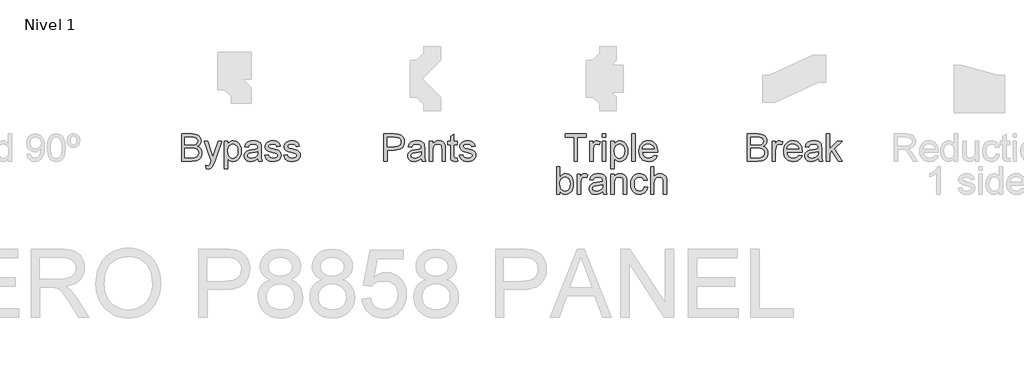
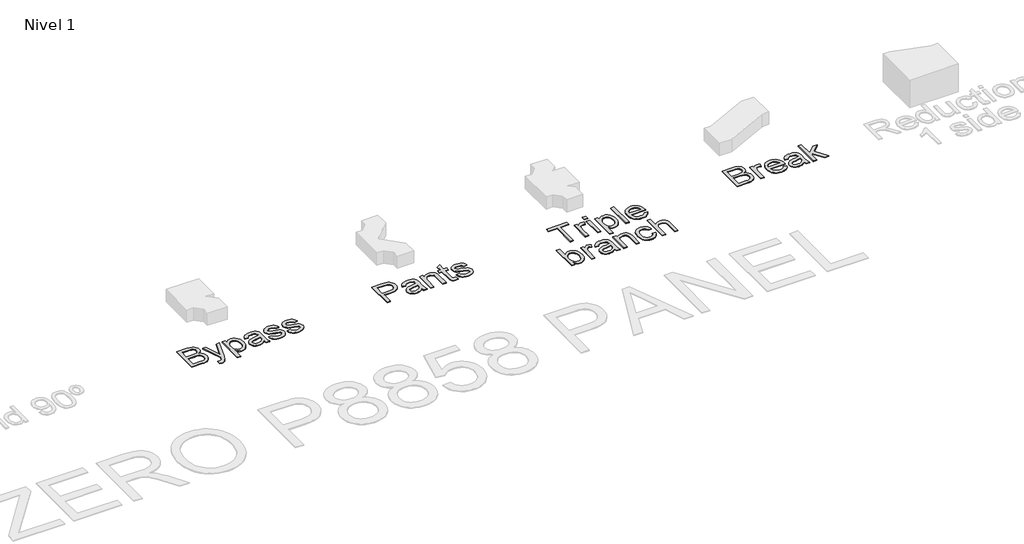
# One storey, part 5 of 7: 4 proxies.
"""IFC4 building model written with IfcOpenShell, lengths in millimetres."""

from ifc_helpers import new_model, si_unit, origin, origin_with_axes, place, context, project, spatial, polyline, outline, extrude, element, save

model = new_model("IFC4")

# Units and contexts
model_context = context("Model", 3, world=origin())
ifc_project = project(units=[si_unit("LENGTHUNIT", "METRE", prefix="MILLI")], contexts=[model_context])

# Site, building, storey
site = spatial("IfcSite", under=ifc_project)
building = spatial("IfcBuilding", under=site)
storey = spatial("IfcBuildingStorey", under=building, Name="Nivel 1", Elevation=0.0)

# Proxies
placement = place(None, origin())
element("IfcBuildingElementProxy", 1, Name="Texto de modelo 1", ObjectType="Texto de modelo 1", at=placement, inside=storey, context=model_context, shape_type="SweptSolid", body=[
    extrude(outline(polyline([(-6321.1990814, -4316.3248037), (-6321.1990814, -3914.4995631), (-6167.8658658, -3914.4995631), (-6125.6943264, -3917.4548818), (-6092.7688878, -3926.3208379), (-6067.532183, -3941.3181605), (-6048.4268447, -3962.667579), (-6036.3971034, -3987.7816565), (-6032.3871897, -4014.0729565), (-6035.7594413, -4038.267329), (-6045.8761962, -4061.014699), (-6062.8110307, -4080.917115), (-6086.6375212, -4096.5766252), (-6058.1757175, -4111.4390578), (-6037.1451302, -4134.0515378), (-6024.1588957, -4162.9180117), (-6019.8301509, -4196.5424261), (-6022.7854696, -4224.5627714), (-6031.6514257, -4250.547503), (-6044.8829148, -4272.6449481), (-6060.9348325, -4289.0034342), (-6080.5919938, -4300.8492344), (-6104.6392135, -4309.4086222), (-6133.8613067, -4314.5957583), (-6169.0430882, -4316.3248037), (-6321.1990814, -4316.3248037)]), holes=[polyline([(-6270.9709263, -4077.7410671), (-6179.2456822, -4077.7410671), (-6125.6820637, -4073.424585), (-6106.9323446, -4065.981106), (-6093.4556009, -4054.8342815), (-6085.3254088, -4040.1557899), (-6082.6153448, -4022.1173094), (-6085.1414678, -4004.6061264), (-6092.7198369, -3989.3512864), (-6105.0070955, -3977.4441725), (-6121.6598872, -3969.976168), (-6147.2154231, -3966.0398306), (-6186.2109146, -3964.7277182), (-6270.9709263, -3964.7277182), (-6270.9709263, -4077.7410671)]), polyline([(-6270.9709263, -4266.0966486), (-6167.9639676, -4266.0966486), (-6130.6852588, -4264.1346113), (-6099.1455091, -4253.1962533), (-6087.569489, -4243.7662115), (-6078.2498117, -4230.8780789), (-6072.1061824, -4215.1082041), (-6070.058306, -4197.0329354), (-6072.4618017, -4176.0391362), (-6079.6722888, -4157.988393), (-6092.2661158, -4143.8739871), (-6110.8196311, -4134.6891999), (-6137.0986682, -4129.6492166), (-6172.8690609, -4127.9692222), (-6270.9709263, -4127.9692222), (-6270.9709263, -4266.0966486)])]), origin_with_axes(), (0.0, 0.0, 1.0), 10.0),
    extrude(outline(polyline([(-5957.0449571, -4429.3381526), (-5963.3234765, -4380.973933), (-5937.8169915, -4385.3885169), (-5924.4015614, -4384.0028281), (-5913.9782382, -4379.8457615), (-5899.3610602, -4364.3947177), (-5885.6267991, -4327.4103145), (-5881.7027245, -4315.2456832), (-5988.437554, -4021.2343926), (-5935.4625467, -4021.2343926), (-5878.8577704, -4185.0645078), (-5859.1392954, -4250.5965539), (-5839.4208205, -4192.7164533), (-5781.2464143, -4021.2343926), (-5728.6638145, -4021.2343926), (-5831.3764675, -4323.388138), (-5858.0601749, -4388.9201841), (-5871.7208597, -4409.8404069), (-5887.1964289, -4424.3349575), (-5905.1735958, -4432.7962434), (-5926.3390732, -4435.616672), (-5957.0449571, -4429.3381526)])), origin_with_axes(), (0.0, 0.0, 1.0), 10.0),
    extrude(outline(polyline([(-5687.0686235, -4429.3381526), (-5687.0686235, -4021.2343926), (-5636.8404685, -4021.2343926), (-5636.8404685, -4070.4815291), (-5620.4574569, -4046.1890546), (-5602.1124081, -4028.8372872), (-5580.7262015, -4018.4262267), (-5555.2197165, -4014.9558732), (-5521.2519456, -4019.8119156), (-5491.5516058, -4034.3800426), (-5467.369496, -4057.7773375), (-5449.9564149, -4089.1208835), (-5439.4349899, -4126.1298122), (-5435.9278482, -4166.5232553), (-5439.888711, -4209.4796096), (-5451.7712994, -4247.8987526), (-5471.1954688, -4279.8309098), (-5497.7810743, -4303.3263065), (-5528.7444756, -4317.7840689), (-5561.3020321, -4322.6033231), (-5584.3927587, -4319.3782243), (-5605.0064132, -4309.7029278), (-5622.6524862, -4295.0980126), (-5636.8404685, -4277.0840575), (-5636.8404685, -4429.3381526), (-5687.0686235, -4429.3381526)]), holes=[polyline([(-5636.8404685, -4171.1340429), (-5631.4080777, -4216.1627991), (-5624.6175892, -4233.6004057), (-5615.1109053, -4247.6534979), (-5591.0636855, -4266.1947505), (-5577.3018332, -4270.8300636), (-5562.3811526, -4272.375168), (-5547.2458742, -4270.7748813), (-5533.2326359, -4265.9740213), (-5520.3414376, -4257.9725879), (-5508.5722795, -4246.7705811), (-5498.7651586, -4232.2085855), (-5491.7600723, -4214.1271854), (-5487.5570205, -4192.526381), (-5486.1560032, -4167.406172), (-5491.6251822, -4122.6226705), (-5498.461656, -4105.0501739), (-5508.0327192, -4090.6905133), (-5532.0431508, -4071.5606496), (-5545.6486532, -4066.7781836), (-5560.3210135, -4065.1840283), (-5574.9473885, -4066.8793512), (-5588.7092408, -4071.9653198), (-5613.6393773, -4092.3091941), (-5623.7898547, -4107.4076843), (-5631.0401957, -4125.5779892), (-5635.3904003, -4146.8201087), (-5636.8404685, -4171.1340429)])]), origin_with_axes(), (0.0, 0.0, 1.0), 10.0),
    extrude(outline(polyline([(-5191.0655922, -4278.6536874), (-5215.063761, -4299.2305537), (-5239.7731683, -4312.6950347), (-5265.7578999, -4320.126251), (-5293.5820415, -4322.6033231), (-5315.9462011, -4321.113401), (-5335.5573772, -4316.6436348), (-5352.4155696, -4309.1940244), (-5366.5207784, -4298.7645698), (-5377.6584058, -4286.0174587), (-5385.613854, -4271.6148785), (-5390.3871228, -4255.5568295), (-5391.9782125, -4237.8433114), (-5389.5747168, -4217.0211905), (-5382.3642297, -4198.1120559), (-5371.2419307, -4181.9252481), (-5357.1029993, -4169.2701075), (-5340.4869959, -4159.7051756), (-5321.9334806, -4152.7889941), (-5278.4743542, -4145.2351505), (-5227.1180277, -4137.2888994), (-5191.3598978, -4127.9692222), (-5191.0655922, -4116.7856095), (-5194.5236829, -4094.3693333), (-5204.8979552, -4079.7031044), (-5228.0990464, -4068.8137973), (-5260.423611, -4065.1840283), (-5290.3446799, -4067.5997868), (-5311.2403773, -4074.8470621), (-5325.4896732, -4088.2502294), (-5335.471538, -4109.133664), (-5385.6996931, -4102.8551446), (-5376.9808898, -4075.3866223), (-5363.9701299, -4053.8042119), (-5345.4534028, -4037.2985731), (-5320.216698, -4025.0603654), (-5289.3513986, -4017.4819963), (-5253.9488879, -4014.9558732), (-5219.9933797, -4017.1876907), (-5193.0766804, -4023.883143), (-5172.781857, -4033.9508469), (-5158.6919766, -4046.2994192), (-5149.3477739, -4061.566522), (-5143.2899837, -4080.3898175), (-5140.8374371, -4124.3394531), (-5140.8374371, -4186.8303414), (-5138.2867886, -4274.0919506), (-5128.2803983, -4316.3248037), (-5178.5085534, -4316.3248037), (-5186.5529064, -4298.8626717), (-5191.0655922, -4278.6536874)]), holes=[polyline([(-5191.0655922, -4178.1973772), (-5224.8126339, -4186.5605613), (-5272.097733, -4193.5993701), (-5315.3116047, -4201.7418249), (-5326.556531, -4207.3091058), (-5334.8829268, -4214.9855768), (-5340.0332748, -4224.1826266), (-5341.7500574, -4234.3116442), (-5338.0099238, -4249.2476532), (-5326.7895229, -4261.4858609), (-5308.3341095, -4269.6528412), (-5282.8889382, -4272.375168), (-5255.9109252, -4269.3707984), (-5232.0721719, -4260.3576895), (-5212.7461044, -4247.0771495), (-5199.3061489, -4231.2704864), (-5193.3464605, -4214.9855768), (-5191.3598978, -4192.4221477), (-5191.0655922, -4178.1973772)])]), origin_with_axes(), (0.0, 0.0, 1.0), 10.0),
    extrude(outline(polyline([(-5090.609282, -4228.4255323), (-5040.381127, -4222.1470129), (-5032.4594013, -4243.6313214), (-5017.1309849, -4259.4257218), (-4994.2977757, -4269.1378064), (-4963.861672, -4272.375168), (-4933.7934502, -4269.4075866), (-4912.6524982, -4260.5048423), (-4900.1445104, -4247.604447), (-4895.9751811, -4232.6439125), (-4900.1690359, -4219.8416191), (-4912.7506001, -4210.0804835), (-4964.4502832, -4195.7576111), (-5040.0868214, -4171.1830939), (-5059.2289478, -4158.8345216), (-5073.0980991, -4142.4882982), (-5081.5225967, -4123.1867562), (-5084.3307626, -4101.9722278), (-5082.0744197, -4082.5112703), (-5075.305391, -4064.5463662), (-5064.6368132, -4048.7887541), (-5050.6818228, -4035.9496724), (-5018.7496656, -4021.0872398), (-4997.866231, -4016.4887149), (-4975.5357939, -4014.9558732), (-4942.8433473, -4017.4206826), (-4914.4183318, -4024.8151107), (-4891.5605972, -4036.4156563), (-4875.5699931, -4051.4988181), (-4864.9749917, -4071.1805048), (-4858.3040648, -4096.5766252), (-4908.5322199, -4102.8551446), (-4914.8720529, -4087.0484816), (-4927.416829, -4075.1413677), (-4946.2891753, -4067.6733632), (-4971.6117193, -4065.1840283), (-5000.4536677, -4067.5629986), (-5019.6816334, -4074.6999093), (-5030.497364, -4085.0006051), (-5034.1026076, -4096.8709308), (-5028.1183938, -4111.4881088), (-5009.3809375, -4122.5736196), (-4966.1180149, -4133.2667229), (-4892.394463, -4156.9092725), (-4872.9212428, -4168.2155124), (-4858.156912, -4183.6910817), (-4848.8494975, -4203.3850312), (-4845.747026, -4227.3464118), (-4849.3890578, -4252.1171328), (-4860.315153, -4275.4163258), (-4878.1083789, -4295.4168436), (-4902.3518024, -4310.291539), (-4931.6352092, -4319.5253771), (-4964.548385, -4322.6033231), (-4991.5815803, -4321.1195324), (-5015.193473, -4316.6681602), (-5035.3840632, -4309.2492067), (-5052.1533508, -4298.8626717), (-5065.8508238, -4285.5576062), (-5076.8259699, -4269.3830611), (-5085.0787894, -4250.3390365), (-5090.609282, -4228.4255323)])), origin_with_axes(), (0.0, 0.0, 1.0), 10.0),
    extrude(outline(polyline([(-4808.0759097, -4228.4255323), (-4757.8477547, -4222.1470129), (-4749.926029, -4243.6313214), (-4734.5976126, -4259.4257218), (-4711.7644034, -4269.1378064), (-4681.3282997, -4272.375168), (-4651.2600779, -4269.4075866), (-4630.1191259, -4260.5048423), (-4617.6111381, -4247.604447), (-4613.4418088, -4232.6439125), (-4617.6356636, -4219.8416191), (-4630.2172278, -4210.0804835), (-4681.9169109, -4195.7576111), (-4757.5534491, -4171.1830939), (-4776.6955755, -4158.8345216), (-4790.5647268, -4142.4882982), (-4798.9892245, -4123.1867562), (-4801.7973903, -4101.9722278), (-4799.5410474, -4082.5112703), (-4792.7720187, -4064.5463662), (-4782.1034409, -4048.7887541), (-4768.1484505, -4035.9496724), (-4736.2162933, -4021.0872398), (-4715.3328587, -4016.4887149), (-4693.0024216, -4014.9558732), (-4660.309975, -4017.4206826), (-4631.8849595, -4024.8151107), (-4609.0272249, -4036.4156563), (-4593.0366208, -4051.4988181), (-4582.4416194, -4071.1805048), (-4575.7706925, -4096.5766252), (-4625.9988476, -4102.8551446), (-4632.3386806, -4087.0484816), (-4644.8834567, -4075.1413677), (-4663.755803, -4067.6733632), (-4689.078347, -4065.1840283), (-4717.9202954, -4067.5629986), (-4737.1482611, -4074.6999093), (-4747.9639917, -4085.0006051), (-4751.5692353, -4096.8709308), (-4745.5850215, -4111.4881088), (-4726.8475652, -4122.5736196), (-4683.5846426, -4133.2667229), (-4609.8610907, -4156.9092725), (-4590.3878705, -4168.2155124), (-4575.6235397, -4183.6910817), (-4566.3161252, -4203.3850312), (-4563.2136537, -4227.3464118), (-4566.8556855, -4252.1171328), (-4577.7817808, -4275.4163258), (-4595.5750066, -4295.4168436), (-4619.8184301, -4310.291539), (-4649.1018369, -4319.5253771), (-4682.0150127, -4322.6033231), (-4709.048208, -4321.1195324), (-4732.6601007, -4316.6681602), (-4752.8506909, -4309.2492067), (-4769.6199785, -4298.8626717), (-4783.3174515, -4285.5576062), (-4794.2925976, -4269.3830611), (-4802.5454171, -4250.3390365), (-4808.0759097, -4228.4255323)])), origin_with_axes(), (0.0, 0.0, 1.0), 10.0),
])
element("IfcBuildingElementProxy", 2, Name="Texto de modelo 1", ObjectType="Texto de modelo 1", at=placement, inside=storey, context=model_context, shape_type="SweptSolid", body=[
    extrude(outline(polyline([(-3323.4257208, -4316.3248037), (-3323.4257208, -3914.4995631), (-3174.5070891, -3914.4995631), (-3114.4687475, -3918.3255358), (-3087.699201, -3925.4747093), (-3065.6630695, -3937.1120431), (-3047.9188946, -3953.7648347), (-3034.0252179, -3975.9603818), (-3025.0488972, -4002.1413171), (-3022.0567903, -4030.7502736), (-3024.0770756, -4055.4167613), (-3030.1379315, -4078.1089491), (-3040.2393579, -4098.8268368), (-3054.3813549, -4117.5704244), (-3073.7963272, -4133.1073074), (-3099.7166795, -4144.2050809), (-3132.1424117, -4150.863745), (-3171.0735238, -4153.0832997), (-3273.1975657, -4153.0832997), (-3273.1975657, -4316.3248037), (-3323.4257208, -4316.3248037)]), holes=[polyline([(-3273.1975657, -4102.8551446), (-3168.1304679, -4102.8551446), (-3123.592221, -4098.244357), (-3106.9884803, -4092.4808724), (-3094.1616614, -4084.4119939), (-3084.5905981, -4074.2523195), (-3077.7541244, -4062.2164469), (-3072.2849454, -4032.5161071), (-3075.5100442, -4009.9526781), (-3085.1853407, -3990.9209162), (-3100.1090869, -3976.5980439), (-3119.0795352, -3968.1612835), (-3169.3076902, -3964.7277182), (-3273.1975657, -3964.7277182), (-3273.1975657, -4102.8551446)])]), origin_with_axes(), (0.0, 0.0, 1.0), 10.0),
    extrude(outline(polyline([(-2770.9160149, -4278.6536874), (-2794.9141838, -4299.2305537), (-2819.6235911, -4312.6950347), (-2845.6083227, -4320.126251), (-2873.4324643, -4322.6033231), (-2895.7966239, -4321.113401), (-2915.4077999, -4316.6436348), (-2932.2659923, -4309.1940244), (-2946.3712012, -4298.7645698), (-2957.5088286, -4286.0174587), (-2965.4642767, -4271.6148785), (-2970.2375456, -4255.5568295), (-2971.8286352, -4237.8433114), (-2969.4251395, -4217.0211905), (-2962.2146524, -4198.1120559), (-2951.0923534, -4181.9252481), (-2936.9534221, -4169.2701075), (-2920.3374186, -4159.7051756), (-2901.7839034, -4152.7889941), (-2858.324777, -4145.2351505), (-2806.9684505, -4137.2888994), (-2771.2103205, -4127.9692222), (-2770.9160149, -4116.7856095), (-2774.3741057, -4094.3693333), (-2784.748378, -4079.7031044), (-2807.9494691, -4068.8137973), (-2840.2740338, -4065.1840283), (-2870.1951027, -4067.5997868), (-2891.0908, -4074.8470621), (-2905.340096, -4088.2502294), (-2915.3219608, -4109.133664), (-2965.5501158, -4102.8551446), (-2956.8313126, -4075.3866223), (-2943.8205527, -4053.8042119), (-2925.3038256, -4037.2985731), (-2900.0671207, -4025.0603654), (-2869.2018213, -4017.4819963), (-2833.7993106, -4014.9558732), (-2799.8438025, -4017.1876907), (-2772.9271032, -4023.883143), (-2752.6322798, -4033.9508469), (-2738.5423994, -4046.2994192), (-2729.1981967, -4061.566522), (-2723.1404065, -4080.3898175), (-2720.6878599, -4124.3394531), (-2720.6878599, -4186.8303414), (-2718.1372114, -4274.0919506), (-2708.1308211, -4316.3248037), (-2758.3589762, -4316.3248037), (-2766.4033291, -4298.8626717), (-2770.9160149, -4278.6536874)]), holes=[polyline([(-2770.9160149, -4178.1973772), (-2804.6630566, -4186.5605613), (-2851.9481557, -4193.5993701), (-2895.1620274, -4201.7418249), (-2906.4069538, -4207.3091058), (-2914.7333496, -4214.9855768), (-2919.8836975, -4224.1826266), (-2921.6004802, -4234.3116442), (-2917.8603465, -4249.2476532), (-2906.6399457, -4261.4858609), (-2888.1845323, -4269.6528412), (-2862.7393609, -4272.375168), (-2835.7613479, -4269.3707984), (-2811.9225947, -4260.3576895), (-2792.5965272, -4247.0771495), (-2779.1565716, -4231.2704864), (-2773.1968833, -4214.9855768), (-2771.2103205, -4192.4221477), (-2770.9160149, -4178.1973772)])]), origin_with_axes(), (0.0, 0.0, 1.0), 10.0),
    extrude(outline(polyline([(-2651.6241466, -4316.3248037), (-2651.6241466, -4021.2343926), (-2601.3959916, -4021.2343926), (-2601.3959916, -4062.4371761), (-2583.9461223, -4041.6641061), (-2562.9891113, -4026.826199), (-2538.5249586, -4017.9234547), (-2510.5536642, -4014.9558732), (-2485.7952059, -4017.3471062), (-2463.1214123, -4024.5208051), (-2444.2122777, -4035.5817904), (-2430.7477967, -4049.6348827), (-2421.6120605, -4066.6432936), (-2415.6891604, -4086.570235), (-2413.04041, -4135.1306583), (-2413.04041, -4316.3248037), (-2463.2685651, -4316.3248037), (-2463.2685651, -4141.899687), (-2464.7155676, -4115.9272182), (-2469.0565752, -4097.459542), (-2477.0641399, -4084.2280529), (-2489.5108141, -4073.9641453), (-2505.4646299, -4067.3790576), (-2523.9936198, -4065.1840283), (-2553.4119167, -4070.1136471), (-2578.489206, -4084.9025033), (-2588.5109247, -4096.9751641), (-2595.6692952, -4113.4746716), (-2599.9643175, -4134.4010257), (-2601.3959916, -4159.7542265), (-2601.3959916, -4316.3248037), (-2651.6241466, -4316.3248037)])), origin_with_axes(), (0.0, 0.0, 1.0), 10.0),
    extrude(outline(polyline([(-2237.2418673, -4274.4353072), (-2230.9633479, -4317.7963317), (-2268.5363623, -4322.6033231), (-2292.6448957, -4320.5186584), (-2310.6220626, -4314.2646645), (-2323.3262541, -4304.6261562), (-2331.6158618, -4292.3879485), (-2336.1775985, -4271.3696239), (-2337.6981774, -4235.3907648), (-2337.6981774, -4071.4625477), (-2375.3692937, -4071.4625477), (-2375.3692937, -4021.2343926), (-2337.6981774, -4021.2343926), (-2337.6981774, -3949.521929), (-2287.4700223, -3919.9932676), (-2287.4700223, -4021.2343926), (-2237.2418673, -4021.2343926), (-2237.2418673, -4071.4625477), (-2287.4700223, -4071.4625477), (-2287.4700223, -4233.9192368), (-2284.821272, -4259.8181292), (-2276.2373588, -4268.9906536), (-2259.1185832, -4272.375168), (-2237.2418673, -4274.4353072)])), origin_with_axes(), (0.0, 0.0, 1.0), 10.0),
    extrude(outline(polyline([(-2205.8492703, -4228.4255323), (-2155.6211153, -4222.1470129), (-2147.6993896, -4243.6313214), (-2132.3709732, -4259.4257218), (-2109.537764, -4269.1378064), (-2079.1016603, -4272.375168), (-2049.0334385, -4269.4075866), (-2027.8924865, -4260.5048423), (-2015.3844987, -4247.604447), (-2011.2151694, -4232.6439125), (-2015.4090242, -4219.8416191), (-2027.9905884, -4210.0804835), (-2079.6902715, -4195.7576111), (-2155.3268097, -4171.1830939), (-2174.4689362, -4158.8345216), (-2188.3380874, -4142.4882982), (-2196.7625851, -4123.1867562), (-2199.570751, -4101.9722278), (-2197.3144081, -4082.5112703), (-2190.5453793, -4064.5463662), (-2179.8768015, -4048.7887541), (-2165.9218111, -4035.9496724), (-2133.9896539, -4021.0872398), (-2113.1062194, -4016.4887149), (-2090.7757822, -4014.9558732), (-2058.0833356, -4017.4206826), (-2029.6583201, -4024.8151107), (-2006.8005855, -4036.4156563), (-1990.8099814, -4051.4988181), (-1980.21498, -4071.1805048), (-1973.5440531, -4096.5766252), (-2023.7722082, -4102.8551446), (-2030.1120412, -4087.0484816), (-2042.6568173, -4075.1413677), (-2061.5291636, -4067.6733632), (-2086.8517076, -4065.1840283), (-2115.6936561, -4067.5629986), (-2134.9216217, -4074.6999093), (-2145.7373523, -4085.0006051), (-2149.3425959, -4096.8709308), (-2143.3583821, -4111.4881088), (-2124.6209258, -4122.5736196), (-2081.3580032, -4133.2667229), (-2007.6344513, -4156.9092725), (-1988.1612311, -4168.2155124), (-1973.3969003, -4183.6910817), (-1964.0894858, -4203.3850312), (-1960.9870144, -4227.3464118), (-1964.6290461, -4252.1171328), (-1975.5551414, -4275.4163258), (-1993.3483672, -4295.4168436), (-2017.5917907, -4310.291539), (-2046.8751975, -4319.5253771), (-2079.7883733, -4322.6033231), (-2106.8215686, -4321.1195324), (-2130.4334613, -4316.6681602), (-2150.6240515, -4309.2492067), (-2167.3933391, -4298.8626717), (-2181.0908121, -4285.5576062), (-2192.0659583, -4269.3830611), (-2200.3187777, -4250.3390365), (-2205.8492703, -4228.4255323)])), origin_with_axes(), (0.0, 0.0, 1.0), 10.0),
])
element("IfcBuildingElementProxy", 3, Name="Texto de modelo 1", ObjectType="Texto de modelo 1", at=placement, inside=storey, context=model_context, shape_type="SweptSolid", body=[
    extrude(outline(polyline([(2060.8779808, -4316.3248037), (2060.8779808, -3914.4995631), (2214.2111964, -3914.4995631), (2256.3827358, -3917.4548818), (2289.3081743, -3926.3208379), (2314.5448792, -3941.3181605), (2333.6502175, -3962.667579), (2345.6799587, -3987.7816565), (2349.6898725, -4014.0729565), (2346.3176208, -4038.267329), (2336.200866, -4061.014699), (2319.2660315, -4080.917115), (2295.4395409, -4096.5766252), (2323.9013446, -4111.4390578), (2344.931932, -4134.0515378), (2357.9181664, -4162.9180117), (2362.2469112, -4196.5424261), (2359.2915925, -4224.5627714), (2350.4256365, -4250.547503), (2337.1941474, -4272.6449481), (2321.1422296, -4289.0034342), (2301.4850684, -4300.8492344), (2277.4378486, -4309.4086222), (2248.2157555, -4314.5957583), (2213.033974, -4316.3248037), (2060.8779808, -4316.3248037)]), holes=[polyline([(2111.1061359, -4077.7410671), (2202.83138, -4077.7410671), (2256.3949985, -4073.424585), (2275.1447175, -4065.981106), (2288.6214613, -4054.8342815), (2296.7516534, -4040.1557899), (2299.4617174, -4022.1173094), (2296.9355944, -4004.6061264), (2289.3572253, -3989.3512864), (2277.0699666, -3977.4441725), (2260.417175, -3969.976168), (2234.861639, -3966.0398306), (2195.8661475, -3964.7277182), (2111.1061359, -3964.7277182), (2111.1061359, -4077.7410671)]), polyline([(2111.1061359, -4266.0966486), (2214.1130945, -4266.0966486), (2251.3918034, -4264.1346113), (2282.9315531, -4253.1962533), (2294.5075732, -4243.7662115), (2303.8272504, -4230.8780789), (2309.9708797, -4215.1082041), (2312.0187562, -4197.0329354), (2309.6152605, -4176.0391362), (2302.4047734, -4157.988393), (2289.8109464, -4143.8739871), (2271.2574311, -4134.6891999), (2244.9783939, -4129.6492166), (2209.2080012, -4127.9692222), (2111.1061359, -4127.9692222), (2111.1061359, -4266.0966486)])]), origin_with_axes(), (0.0, 0.0, 1.0), 10.0),
    extrude(outline(polyline([(2425.0321051, -4316.3248037), (2425.0321051, -4021.2343926), (2468.9817408, -4021.2343926), (2468.9817408, -4064.8897227), (2485.2175995, -4039.5794415), (2500.178134, -4024.6679579), (2515.1877194, -4017.3838944), (2531.5707309, -4014.9558732), (2556.5867066, -4018.8308969), (2581.9950897, -4030.455968), (2565.2196707, -4075.4847242), (2547.5613349, -4067.7592023), (2529.9029992, -4065.1840283), (2514.9056765, -4067.6611004), (2501.5025091, -4075.0923167), (2490.6745157, -4086.9135915), (2483.402715, -4102.560839), (2477.2958739, -4130.6179725), (2475.2602602, -4161.2257545), (2475.2602602, -4316.3248037), (2425.0321051, -4316.3248037)])), origin_with_axes(), (0.0, 0.0, 1.0), 10.0),
    extrude(outline(polyline([(2819.9902151, -4228.4255323), (2869.2373515, -4234.7040517), (2861.6865736, -4254.428658), (2851.4931766, -4271.8110823), (2838.6571607, -4286.8513245), (2823.1785257, -4299.5493847), (2805.2166873, -4309.6354827), (2784.931061, -4316.8398385), (2737.3884444, -4322.6033231), (2706.2227081, -4320.1170539), (2678.4537488, -4312.6582465), (2654.0815666, -4300.2269007), (2633.1061615, -4282.8230167), (2616.2387721, -4260.9309723), (2604.1906367, -4235.0351455), (2596.9617555, -4205.1355363), (2594.5521285, -4171.2321448), (2596.986281, -4136.179122), (2604.2887386, -4105.2831658), (2616.4595013, -4078.5442761), (2633.498569, -4055.962453), (2654.4187918, -4038.0220743), (2678.2330196, -4025.2075182), (2704.9412525, -4017.5187845), (2734.5434904, -4014.9558732), (2763.1923007, -4017.5126531), (2789.1003902, -4025.1829927), (2812.2677589, -4037.966892), (2832.6944067, -4055.8643511), (2849.3686581, -4078.3971233), (2861.2788377, -4105.0869621), (2868.4249454, -4135.9338674), (2870.8069814, -4170.9378392), (2870.5126758, -4184.4758966), (2644.7802835, -4184.4758966), (2647.689617, -4204.519334), (2653.4745613, -4222.0734365), (2662.1351167, -4237.1382042), (2673.6712829, -4249.7136371), (2687.4453979, -4259.6280569), (2702.8197996, -4266.7097853), (2738.3694631, -4272.375168), (2765.1022214, -4269.7509431), (2787.6165995, -4261.8782684), (2805.9125974, -4248.2666346), (2819.9902151, -4228.4255323)]), holes=[polyline([(2644.7802835, -4134.2477415), (2820.5788263, -4134.2477415), (2813.7852721, -4107.711187), (2800.4679439, -4088.728476), (2786.7704709, -4078.4277801), (2771.1845371, -4071.0701402), (2753.7101423, -4066.6555563), (2734.3472866, -4065.1840283), (2700.4898803, -4069.8806551), (2672.4940605, -4083.9705355), (2653.033103, -4105.9330907), (2644.7802835, -4134.2477415)])]), origin_with_axes(), (0.0, 0.0, 1.0), 10.0),
    extrude(outline(polyline([(3109.390718, -4278.6536874), (3085.3925492, -4299.2305537), (3060.6831418, -4312.6950347), (3034.6984102, -4320.126251), (3006.8742686, -4322.6033231), (2984.510109, -4321.113401), (2964.898933, -4316.6436348), (2948.0407406, -4309.1940244), (2933.9355317, -4298.7645698), (2922.7979043, -4286.0174587), (2914.8424562, -4271.6148785), (2910.0691873, -4255.5568295), (2908.4780977, -4237.8433114), (2910.8815934, -4217.0211905), (2918.0920805, -4198.1120559), (2929.2143795, -4181.9252481), (2943.3533108, -4169.2701075), (2959.9693143, -4159.7051756), (2978.5228296, -4152.7889941), (3021.9819559, -4145.2351505), (3073.3382824, -4137.2888994), (3109.0964124, -4127.9692222), (3109.390718, -4116.7856095), (3105.9326272, -4094.3693333), (3095.558355, -4079.7031044), (3072.3572638, -4068.8137973), (3040.0326991, -4065.1840283), (3010.1116302, -4067.5997868), (2989.2159329, -4074.8470621), (2974.9666369, -4088.2502294), (2964.9847721, -4109.133664), (2914.7566171, -4102.8551446), (2923.4754203, -4075.3866223), (2936.4861802, -4053.8042119), (2955.0029073, -4037.2985731), (2980.2396122, -4025.0603654), (3011.1049116, -4017.4819963), (3046.5074223, -4014.9558732), (3080.4629304, -4017.1876907), (3107.3796297, -4023.883143), (3127.6744531, -4033.9508469), (3141.7643335, -4046.2994192), (3151.1085362, -4061.566522), (3157.1663264, -4080.3898175), (3159.618873, -4124.3394531), (3159.618873, -4186.8303414), (3162.1695215, -4274.0919506), (3172.1759118, -4316.3248037), (3121.9477567, -4316.3248037), (3113.9034038, -4298.8626717), (3109.390718, -4278.6536874)]), holes=[polyline([(3109.390718, -4178.1973772), (3075.6436763, -4186.5605613), (3028.3585772, -4193.5993701), (2985.1447055, -4201.7418249), (2973.8997791, -4207.3091058), (2965.5733833, -4214.9855768), (2960.4230354, -4224.1826266), (2958.7062527, -4234.3116442), (2962.4463864, -4249.2476532), (2973.6667872, -4261.4858609), (2992.1222006, -4269.6528412), (3017.567372, -4272.375168), (3044.545385, -4269.3707984), (3068.3841382, -4260.3576895), (3087.7102057, -4247.0771495), (3101.1501613, -4231.2704864), (3107.1098496, -4214.9855768), (3109.0964124, -4192.4221477), (3109.390718, -4178.1973772)])]), origin_with_axes(), (0.0, 0.0, 1.0), 10.0),
    extrude(outline(polyline([(3228.6825863, -4316.3248037), (3228.6825863, -3914.4995631), (3278.9107413, -3914.4995631), (3278.9107413, -4130.4217688), (3391.5316828, -4021.2343926), (3460.9878035, -4021.2343926), (3346.9934359, -4131.7951949), (3467.2663229, -4316.3248037), (3408.6014074, -4316.3248037), (3310.9900513, -4166.719459), (3278.9107413, -4197.8177503), (3278.9107413, -4316.3248037), (3228.6825863, -4316.3248037)])), origin_with_axes(), (0.0, 0.0, 1.0), 10.0),
])
element("IfcBuildingElementProxy", 4, Name="Texto de modelo 1", ObjectType="Texto de modelo 1", at=placement, inside=storey, context=model_context, shape_type="SweptSolid", body=[
    extrude(outline(polyline([(-507.2731121, -4316.3248037), (-507.2731121, -3964.7277182), (-639.1220192, -3964.7277182), (-639.1220192, -3914.4995631), (-325.19605, -3914.4995631), (-325.19605, -3964.7277182), (-457.0449571, -3964.7277182), (-457.0449571, -4316.3248037), (-507.2731121, -4316.3248037)])), origin_with_axes(), (0.0, 0.0, 1.0), 10.0),
    extrude(outline(polyline([(-274.9678949, -4316.3248037), (-274.9678949, -4021.2343926), (-231.0182592, -4021.2343926), (-231.0182592, -4064.8897227), (-214.7824005, -4039.5794415), (-199.821866, -4024.6679579), (-184.8122806, -4017.3838944), (-168.4292691, -4014.9558732), (-143.4132934, -4018.8308969), (-118.0049103, -4030.455968), (-134.7803293, -4075.4847242), (-152.4386651, -4067.7592023), (-170.0970008, -4065.1840283), (-185.0943235, -4067.6611004), (-198.4974909, -4075.0923167), (-209.3254843, -4086.9135915), (-216.597285, -4102.560839), (-222.7041261, -4130.6179725), (-224.7397398, -4161.2257545), (-224.7397398, -4316.3248037), (-274.9678949, -4316.3248037)])), origin_with_axes(), (0.0, 0.0, 1.0), 10.0),
    extrude(outline(polyline([(-86.6123134, -3964.7277182), (-86.6123134, -3914.4995631), (-36.3841583, -3914.4995631), (-36.3841583, -3964.7277182), (-86.6123134, -3964.7277182)])), origin_with_axes(), (0.0, 0.0, 1.0), 10.0),
    extrude(outline(polyline([(-86.6123134, -4316.3248037), (-86.6123134, -4021.2343926), (-36.3841583, -4021.2343926), (-36.3841583, -4316.3248037), (-86.6123134, -4316.3248037)])), origin_with_axes(), (0.0, 0.0, 1.0), 10.0),
    extrude(outline(polyline([(38.9580743, -4429.3381526), (38.9580743, -4021.2343926), (89.1862294, -4021.2343926), (89.1862294, -4070.4815291), (105.5692409, -4046.1890546), (123.9142897, -4028.8372872), (145.3004964, -4018.4262267), (170.8069814, -4014.9558732), (204.7747523, -4019.8119156), (234.475092, -4034.3800426), (258.6572018, -4057.7773375), (276.0702829, -4089.1208835), (286.591708, -4126.1298122), (290.0988497, -4166.5232553), (286.1379869, -4209.4796096), (274.2553984, -4247.8987526), (254.8312291, -4279.8309098), (228.2456235, -4303.3263065), (197.2822223, -4317.7840689), (164.7246657, -4322.6033231), (141.6339391, -4319.3782243), (121.0202847, -4309.7029278), (103.3742116, -4295.0980126), (89.1862294, -4277.0840575), (89.1862294, -4429.3381526), (38.9580743, -4429.3381526)]), holes=[polyline([(89.1862294, -4171.1340429), (94.6186202, -4216.1627991), (101.4091087, -4233.6004057), (110.9157926, -4247.6534979), (134.9630123, -4266.1947505), (148.7248646, -4270.8300636), (163.6455452, -4272.375168), (178.7808236, -4270.7748813), (192.7940619, -4265.9740213), (205.6852602, -4257.9725879), (217.4544184, -4246.7705811), (227.2615392, -4232.2085855), (234.2666255, -4214.1271854), (238.4696773, -4192.526381), (239.8706946, -4167.406172), (234.4015156, -4122.6226705), (227.5650419, -4105.0501739), (217.9939786, -4090.6905133), (193.9835471, -4071.5606496), (180.3780446, -4066.7781836), (165.7056844, -4065.1840283), (151.0793094, -4066.8793512), (137.3174571, -4071.9653198), (112.3873205, -4092.3091941), (102.2368431, -4107.4076843), (94.9865022, -4125.5779892), (90.6362976, -4146.8201087), (89.1862294, -4171.1340429)])]), origin_with_axes(), (0.0, 0.0, 1.0), 10.0),
    extrude(outline(polyline([(346.6055241, -4316.3248037), (346.6055241, -3914.4995631), (396.8336792, -3914.4995631), (396.8336792, -4316.3248037), (346.6055241, -4316.3248037)])), origin_with_axes(), (0.0, 0.0, 1.0), 10.0),
    extrude(outline(polyline([(678.7784403, -4228.4255323), (728.0255767, -4234.7040517), (720.4747988, -4254.428658), (710.2814018, -4271.8110823), (697.4453859, -4286.8513245), (681.9667509, -4299.5493847), (664.0049125, -4309.6354827), (643.7192862, -4316.8398385), (596.1766697, -4322.6033231), (565.0109333, -4320.1170539), (537.241974, -4312.6582465), (512.8697918, -4300.2269007), (491.8943868, -4282.8230167), (475.0269973, -4260.9309723), (462.9788619, -4235.0351455), (455.7499807, -4205.1355363), (453.3403537, -4171.2321448), (455.7745062, -4136.179122), (463.0769638, -4105.2831658), (475.2477265, -4078.5442761), (492.2867942, -4055.962453), (513.207017, -4038.0220743), (537.0212448, -4025.2075182), (563.7294777, -4017.5187845), (593.3317156, -4014.9558732), (621.9805259, -4017.5126531), (647.8886154, -4025.1829927), (671.0559841, -4037.966892), (691.4826319, -4055.8643511), (708.1568833, -4078.3971233), (720.0670629, -4105.0869621), (727.2131707, -4135.9338674), (729.5952066, -4170.9378392), (729.300901, -4184.4758966), (503.5685087, -4184.4758966), (506.4778422, -4204.519334), (512.2627866, -4222.0734365), (520.9233419, -4237.1382042), (532.4595081, -4249.7136371), (546.2336231, -4259.6280569), (561.6080248, -4266.7097853), (597.1576883, -4272.375168), (623.8904466, -4269.7509431), (646.4048247, -4261.8782684), (664.7008226, -4248.2666346), (678.7784403, -4228.4255323)]), holes=[polyline([(503.5685087, -4134.2477415), (679.3670515, -4134.2477415), (672.5734973, -4107.711187), (659.2561691, -4088.728476), (645.5586961, -4078.4277801), (629.9727623, -4071.0701402), (612.4983675, -4066.6555563), (593.1355118, -4065.1840283), (559.2781055, -4069.8806551), (531.2822857, -4083.9705355), (511.8213282, -4105.9330907), (503.5685087, -4134.2477415)])]), origin_with_axes(), (0.0, 0.0, 1.0), 10.0),
    extrude(outline(polyline([(-717.6035115, -4804.2240751), (-767.8316666, -4804.2240751), (-767.8316666, -4402.3988345), (-717.6035115, -4402.3988345), (-717.6035115, -4551.415568), (-701.0856099, -4530.1703828), (-682.4339928, -4514.9952505), (-661.6486601, -4505.8901711), (-638.7296118, -4502.8551446), (-612.8552448, -4505.5897341), (-588.4033548, -4513.7935026), (-566.7718935, -4526.9514153), (-549.3588124, -4544.5484374), (-535.7103904, -4566.4128907), (-525.3729063, -4592.3730968), (-518.861395, -4621.3499353), (-516.6908912, -4652.2642856), (-518.9380371, -4687.9365764), (-525.6794746, -4719.3169106), (-536.9152039, -4746.4052882), (-552.6452249, -4769.2017091), (-571.5267683, -4787.2708465), (-592.2170648, -4800.1773731), (-614.7161145, -4807.9212891), (-639.0239174, -4810.5025945), (-662.6971237, -4807.1732624), (-683.6847916, -4797.1852662), (-701.9869208, -4780.538606), (-717.6035115, -4757.2332816), (-717.6035115, -4804.2240751)]), holes=[polyline([(-717.6035115, -4654.6187304), (-714.1699462, -4696.5082269), (-703.8692504, -4724.859666), (-691.6984877, -4740.3536293), (-677.553425, -4751.420746), (-661.4340622, -4758.061016), (-643.3403994, -4760.2744394), (-628.3185513, -4758.6434959), (-614.3512982, -4753.7506653), (-601.4386402, -4745.5959478), (-589.5805772, -4734.1793432), (-579.6661574, -4719.5315084), (-572.584429, -4701.6831003), (-568.335392, -4680.6341188), (-566.9190463, -4656.3845639), (-572.3514371, -4610.42384), (-579.1419256, -4592.6306142), (-588.6486095, -4578.2954791), (-600.0805425, -4567.2651506), (-612.6467783, -4559.3863446), (-626.3473169, -4554.6590609), (-641.1821584, -4553.0832997), (-656.2040065, -4554.7142432), (-670.1712596, -4559.6070737), (-683.0839176, -4567.7617913), (-694.9419806, -4579.1783959), (-704.8564004, -4593.6790779), (-711.9381288, -4611.0860276), (-716.1871658, -4631.3992451), (-717.6035115, -4654.6187304)])]), origin_with_axes(), (0.0, 0.0, 1.0), 10.0),
    extrude(outline(polyline([(-460.1842168, -4804.2240751), (-460.1842168, -4509.133664), (-416.2345811, -4509.133664), (-416.2345811, -4552.7889941), (-399.9987224, -4527.4787128), (-385.0381879, -4512.5672293), (-370.0286025, -4505.2831658), (-353.645591, -4502.8551446), (-328.6296153, -4506.7301683), (-303.2212322, -4518.3552394), (-319.9966511, -4563.3839956), (-337.6549869, -4555.6584737), (-355.3133227, -4553.0832997), (-370.3106453, -4555.5603718), (-383.7138127, -4562.9915881), (-394.5418061, -4574.8128629), (-401.8136069, -4590.4601104), (-407.920448, -4618.5172439), (-409.9560617, -4649.1250259), (-409.9560617, -4804.2240751), (-460.1842168, -4804.2240751)])), origin_with_axes(), (0.0, 0.0, 1.0), 10.0),
    extrude(outline(polyline([(-83.4730537, -4766.5529588), (-107.4712225, -4787.129825), (-132.1806299, -4800.5943061), (-158.1653615, -4808.0255224), (-185.989503, -4810.5025945), (-208.3536626, -4809.0126724), (-227.9648387, -4804.5429061), (-244.8230311, -4797.0932957), (-258.9282399, -4786.6638412), (-270.0658673, -4773.91673), (-278.0213155, -4759.5141499), (-282.7945844, -4743.4561008), (-284.385674, -4725.7425828), (-281.9821783, -4704.9204618), (-274.7716912, -4686.0113273), (-263.6493922, -4669.8245195), (-249.5104609, -4657.1693789), (-232.8944574, -4647.604447), (-214.3409421, -4640.6882655), (-170.8818158, -4633.1344219), (-119.5254892, -4625.1881708), (-83.7673593, -4615.8684935), (-83.4730537, -4604.6848809), (-86.9311445, -4582.2686047), (-97.3054167, -4567.6023758), (-120.5065079, -4556.7130687), (-152.8310725, -4553.0832997), (-182.7521415, -4555.4990581), (-203.6478388, -4562.7463334), (-217.8971347, -4576.1495008), (-227.8789995, -4597.0329354), (-278.1071546, -4590.754416), (-269.3883513, -4563.2858937), (-256.3775914, -4541.7034833), (-237.8608643, -4525.1978445), (-212.6241595, -4512.9596368), (-181.7588601, -4505.3812677), (-146.3563494, -4502.8551446), (-112.4008413, -4505.0869621), (-85.4841419, -4511.7824144), (-65.1893185, -4521.8501183), (-51.0994381, -4534.1986906), (-41.7552354, -4549.4657934), (-35.6974453, -4568.2890888), (-33.2448986, -4612.2387245), (-33.2448986, -4674.7296128), (-30.6942501, -4761.991222), (-20.6878599, -4804.2240751), (-70.9160149, -4804.2240751), (-78.9603679, -4786.761943), (-83.4730537, -4766.5529588)]), holes=[polyline([(-83.4730537, -4666.0966486), (-117.2200954, -4674.4598326), (-164.5051945, -4681.4986415), (-207.7190662, -4689.6410963), (-218.9639925, -4695.2083772), (-227.2903883, -4702.8848481), (-232.4407363, -4712.081898), (-234.1575189, -4722.2109156), (-230.4173853, -4737.1469246), (-219.1969845, -4749.3851323), (-200.741571, -4757.5521126), (-175.2963997, -4760.2744394), (-148.3183867, -4757.2700698), (-124.4796334, -4748.2569609), (-105.153566, -4734.9764209), (-91.7136104, -4719.1697578), (-85.7539221, -4702.8848481), (-83.7673593, -4680.3214191), (-83.4730537, -4666.0966486)])]), origin_with_axes(), (0.0, 0.0, 1.0), 10.0),
    extrude(outline(polyline([(35.8188146, -4804.2240751), (35.8188146, -4509.133664), (86.0469697, -4509.133664), (86.0469697, -4550.3364475), (103.496839, -4529.5633775), (124.45385, -4514.7254703), (148.9180027, -4505.8227261), (176.889297, -4502.8551446), (201.6477553, -4505.2463776), (224.3215489, -4512.4200765), (243.2306835, -4523.4810618), (256.6951645, -4537.534154), (265.8309007, -4554.5425649), (271.7538008, -4574.4695064), (274.4025512, -4623.0299297), (274.4025512, -4804.2240751), (224.1743961, -4804.2240751), (224.1743961, -4629.7989584), (222.7273936, -4603.8264896), (218.3863861, -4585.3588134), (210.3788213, -4572.1273243), (197.9321471, -4561.8634167), (181.9783313, -4555.2783289), (163.4493415, -4553.0832997), (134.0310446, -4558.0129184), (108.9537552, -4572.8017746), (98.9320366, -4584.8744355), (91.7736661, -4601.3739429), (87.4786438, -4622.3002971), (86.0469697, -4647.6534979), (86.0469697, -4804.2240751), (35.8188146, -4804.2240751)])), origin_with_axes(), (0.0, 0.0, 1.0), 10.0),
    extrude(outline(polyline([(531.821846, -4697.4892455), (582.050001, -4703.7677649), (576.5869534, -4727.4685625), (568.0459598, -4748.4409019), (556.4270201, -4766.6847832), (541.7301344, -4782.2002063), (524.5745707, -4794.5825011), (505.579597, -4803.4269974), (484.7452133, -4808.7336952), (462.0714197, -4810.5025945), (433.9008559, -4808.0347194), (408.6426912, -4800.6310943), (386.2969257, -4788.291719), (366.8635593, -4771.0165936), (351.1335384, -4749.1306806), (339.8978091, -4722.9589423), (333.1563715, -4692.5013788), (330.9092257, -4657.7579901), (334.7474611, -4613.0603276), (346.2621676, -4574.3223536), (365.637286, -4543.0401212), (393.0567574, -4520.7096841), (425.8595686, -4507.3187795), (461.3847066, -4502.8551446), (483.6691585, -4504.3879863), (503.8260261, -4508.9865112), (521.8553096, -4516.6507194), (537.7570088, -4527.380611), (551.2613437, -4540.9309311), (562.0985342, -4557.0564252), (570.2685801, -4575.7570933), (575.7714817, -4597.0329354), (525.5433266, -4603.3114548), (516.4321158, -4581.3979506), (502.2441336, -4565.6893894), (483.7641947, -4556.2348221), (461.7771141, -4553.0832997), (444.7104552, -4554.6345354), (429.3176594, -4559.2882427), (415.5987266, -4567.0444214), (403.553657, -4577.9030716), (393.7465361, -4592.1155794), (386.7414498, -4609.9333307), (382.538398, -4631.3563255), (381.1373807, -4656.3845639), (386.6188225, -4703.4611966), (393.4706246, -4721.3985095), (403.0631477, -4735.6018202), (414.869094, -4746.3960911), (428.3611662, -4754.1062846), (443.5393642, -4758.7324007), (460.403688, -4760.2744394), (486.412945, -4756.4239412), (507.737838, -4744.8724465), (523.2501955, -4725.3256498), (531.821846, -4697.4892455)])), origin_with_axes(), (0.0, 0.0, 1.0), 10.0),
    extrude(outline(polyline([(625.9996367, -4804.2240751), (625.9996367, -4402.3988345), (676.2277918, -4402.3988345), (676.2277918, -4550.1402437), (694.6770739, -4529.4530129), (715.3949616, -4514.6764194), (738.3814549, -4505.8104633), (763.6365539, -4502.8551446), (793.9745557, -4506.0802435), (820.0451265, -4515.7555399), (840.5729418, -4531.1207446), (854.2826775, -4551.415568), (862.0081994, -4579.3010232), (864.5833733, -4617.4381234), (864.5833733, -4804.2240751), (814.3552183, -4804.2240751), (814.3552183, -4622.6375223), (810.3575672, -4591.1958744), (798.3646142, -4569.662515), (779.0385467, -4557.2281035), (753.0415524, -4553.0832997), (731.8147613, -4555.8792029), (711.8878199, -4564.2669124), (695.382181, -4577.4370878), (684.4192976, -4594.5803888), (678.2756682, -4617.364547), (676.2277918, -4647.4572942), (676.2277918, -4804.2240751), (625.9996367, -4804.2240751)])), origin_with_axes(), (0.0, 0.0, 1.0), 10.0),
])

save(model, "model.ifc")
